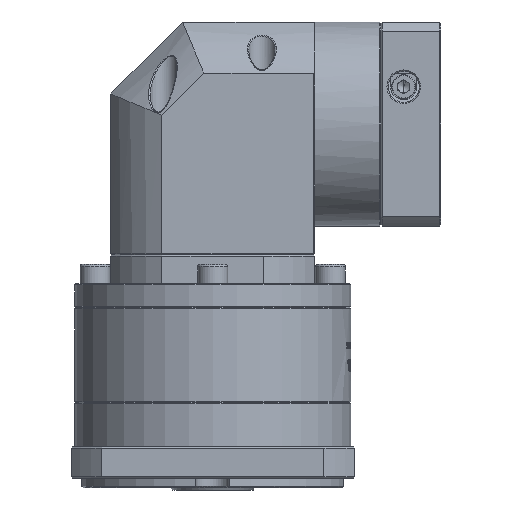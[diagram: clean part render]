
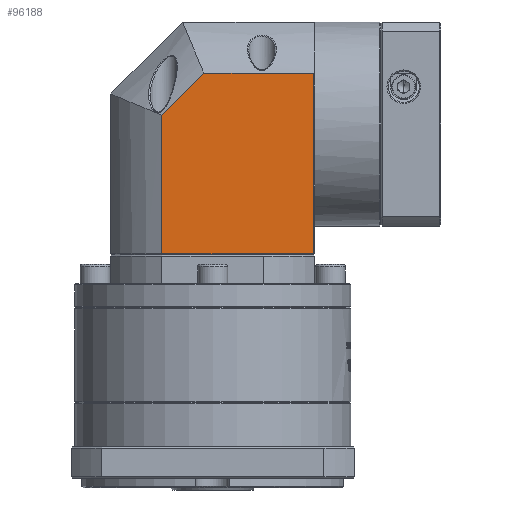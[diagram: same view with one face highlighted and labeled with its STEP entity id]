
A CAD part, front view. The second image highlights one B-rep face of the part: STEP entity #96188.
In plain terms, the highlighted planar face has unit normal (0, -1, 0).
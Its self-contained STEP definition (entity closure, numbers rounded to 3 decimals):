
#1712 = CARTESIAN_POINT ( 'NONE',  ( 53.78, 100.462, 60.743 ) ) ;
#6323 = ORIENTED_EDGE ( 'NONE', *, *, #104363, .F. ) ;
#7030 = CARTESIAN_POINT ( 'NONE',  ( -9.433, 100.462, 60.743 ) ) ;
#15433 = EDGE_CURVE ( 'NONE', #126566, #130533, #52940, .T. ) ;
#16904 = CARTESIAN_POINT ( 'NONE',  ( -9.433, 100.462, 21.926 ) ) ;
#32169 = VECTOR ( 'NONE', #99058, 1000. ) ;
#33075 = ORIENTED_EDGE ( 'NONE', *, *, #15433, .F. ) ;
#34005 = DIRECTION ( 'NONE',  ( -1., 0., 0. ) ) ;
#35196 = EDGE_CURVE ( 'NONE', #86920, #128907, #46485, .T. ) ;
#37668 = CARTESIAN_POINT ( 'NONE',  ( 54.28, 100.462, 39.456 ) ) ;
#40323 = VECTOR ( 'NONE', #82206, 1000. ) ;
#46485 = LINE ( 'NONE', #7030, #32169 ) ;
#52940 = LINE ( 'NONE', #1712, #149768 ) ;
#58993 = CARTESIAN_POINT ( 'NONE',  ( -9.433, 100.462, 21.926 ) ) ;
#60687 = ORIENTED_EDGE ( 'NONE', *, *, #137668, .F. ) ;
#71484 = VECTOR ( 'NONE', #151157, 1000. ) ;
#82206 = DIRECTION ( 'NONE',  ( 1., 0., 0. ) ) ;
#83392 = ORIENTED_EDGE ( 'NONE', *, *, #84968, .T. ) ;
#84968 = EDGE_CURVE ( 'NONE', #86920, #130533, #106307, .T. ) ;
#86920 = VERTEX_POINT ( 'NONE', #147059 ) ;
#92509 = DIRECTION ( 'NONE',  ( 0., 0., -1. ) ) ;
#94930 = CARTESIAN_POINT ( 'NONE',  ( 8.097, 100.462, 39.456 ) ) ;
#96188 = ADVANCED_FACE ( 'NONE', ( #141248 ), #113995, .F. ) ;
#99058 = DIRECTION ( 'NONE',  ( 0., 0., 1. ) ) ;
#101330 = CARTESIAN_POINT ( 'NONE',  ( 54.28, 100.462, 60.743 ) ) ;
#104363 = EDGE_CURVE ( 'NONE', #106245, #126566, #166326, .T. ) ;
#106245 = VERTEX_POINT ( 'NONE', #94930 ) ;
#106307 = LINE ( 'NONE', #160404, #40323 ) ;
#106674 = LINE ( 'NONE', #58993, #71484 ) ;
#108408 = AXIS2_PLACEMENT_3D ( 'NONE', #101330, #141573, #34005 ) ;
#112722 = CARTESIAN_POINT ( 'NONE',  ( 53.78, 100.462, 39.456 ) ) ;
#113995 = PLANE ( 'NONE',  #108408 ) ;
#126275 = EDGE_LOOP ( 'NONE', ( #83392, #33075, #6323, #60687, #152287 ) ) ;
#126566 = VERTEX_POINT ( 'NONE', #112722 ) ;
#128907 = VERTEX_POINT ( 'NONE', #16904 ) ;
#130533 = VERTEX_POINT ( 'NONE', #170254 ) ;
#137551 = VECTOR ( 'NONE', #168264, 1000. ) ;
#137668 = EDGE_CURVE ( 'NONE', #128907, #106245, #106674, .T. ) ;
#141248 = FACE_OUTER_BOUND ( 'NONE', #126275, .T. ) ;
#141573 = DIRECTION ( 'NONE',  ( 0., 1., 0. ) ) ;
#147059 = CARTESIAN_POINT ( 'NONE',  ( -9.433, 100.462, -35.757 ) ) ;
#149768 = VECTOR ( 'NONE', #92509, 1000. ) ;
#151157 = DIRECTION ( 'NONE',  ( 0.707, 0., 0.707 ) ) ;
#152287 = ORIENTED_EDGE ( 'NONE', *, *, #35196, .F. ) ;
#160404 = CARTESIAN_POINT ( 'NONE',  ( 54.28, 100.462, -35.757 ) ) ;
#166326 = LINE ( 'NONE', #37668, #137551 ) ;
#168264 = DIRECTION ( 'NONE',  ( 1., 0., 0. ) ) ;
#170254 = CARTESIAN_POINT ( 'NONE',  ( 53.78, 100.462, -35.757 ) ) ;
